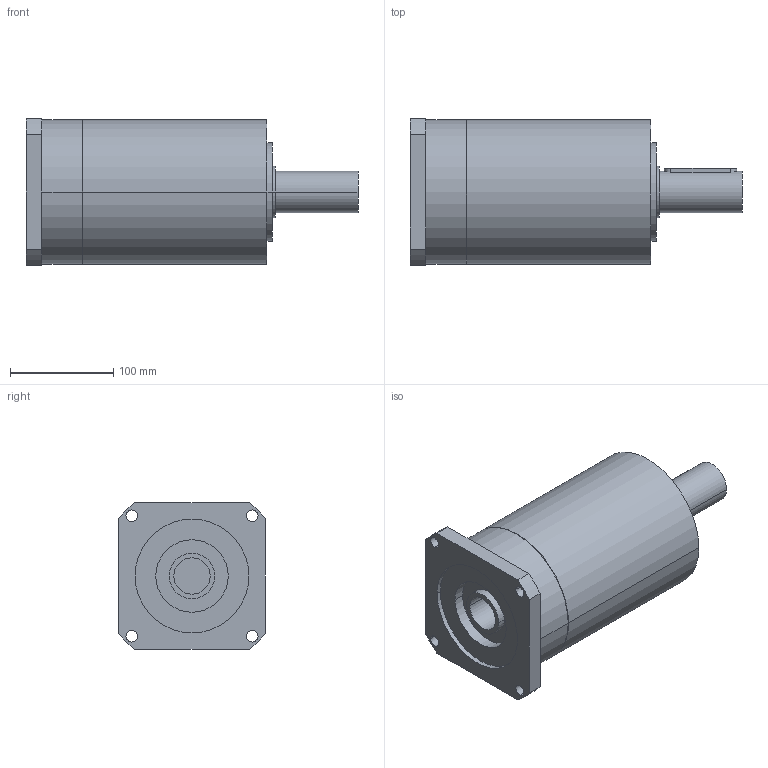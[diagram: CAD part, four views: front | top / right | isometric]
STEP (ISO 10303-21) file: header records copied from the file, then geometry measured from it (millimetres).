
FILE_DESCRIPTION(('CoCreate Modeling STEP Export'),'2;1');
FILE_NAME('GPR150_ig-9-12-16-20-28-35_40_B14_35_P14.stp','2014-08-19T17:04:22',(''),(''),'CoCreate Modeling STEP processor for AP214 (Solid Model)','CoCreate Modeling 16.00C 25-Feb-2009 (C) Parametric Technology GmbH','');
FILE_SCHEMA(('AUTOMOTIVE_DESIGN { 1 0 10303 214 1 1 1 1 }'));
Length unit declared in the file: millimetre
Products named in the file (2): GPR150_ig-9-12-16-20-28-35_40_B14_35_P14
Assembly tree (1 placements, depth 2):
  GPR150_ig-9-12-16-20-28-35_40_B14_35_P14
    GPR150_ig-9-12-16-20-28-35_40_B14_35_P14
Bounding box: 321 x 142 x 142 mm (x, y, z)
Volume: 3631174.3 mm3; surface area: 175983.4 mm2
Topology: 1 solids, 1 shells, 70 faces, 189 edges, 133 vertices
Faces by surface type: cylinder 42, plane 22, cone 6
Entity records: 1968 total; most frequent: CARTESIAN_POINT 385, ORIENTED_EDGE 374, DIRECTION 262, EDGE_CURVE 187, VERTEX_POINT 133, AXIS2_PLACEMENT_3D 98, EDGE_LOOP 92, FACE_OUTER_BOUND 70
